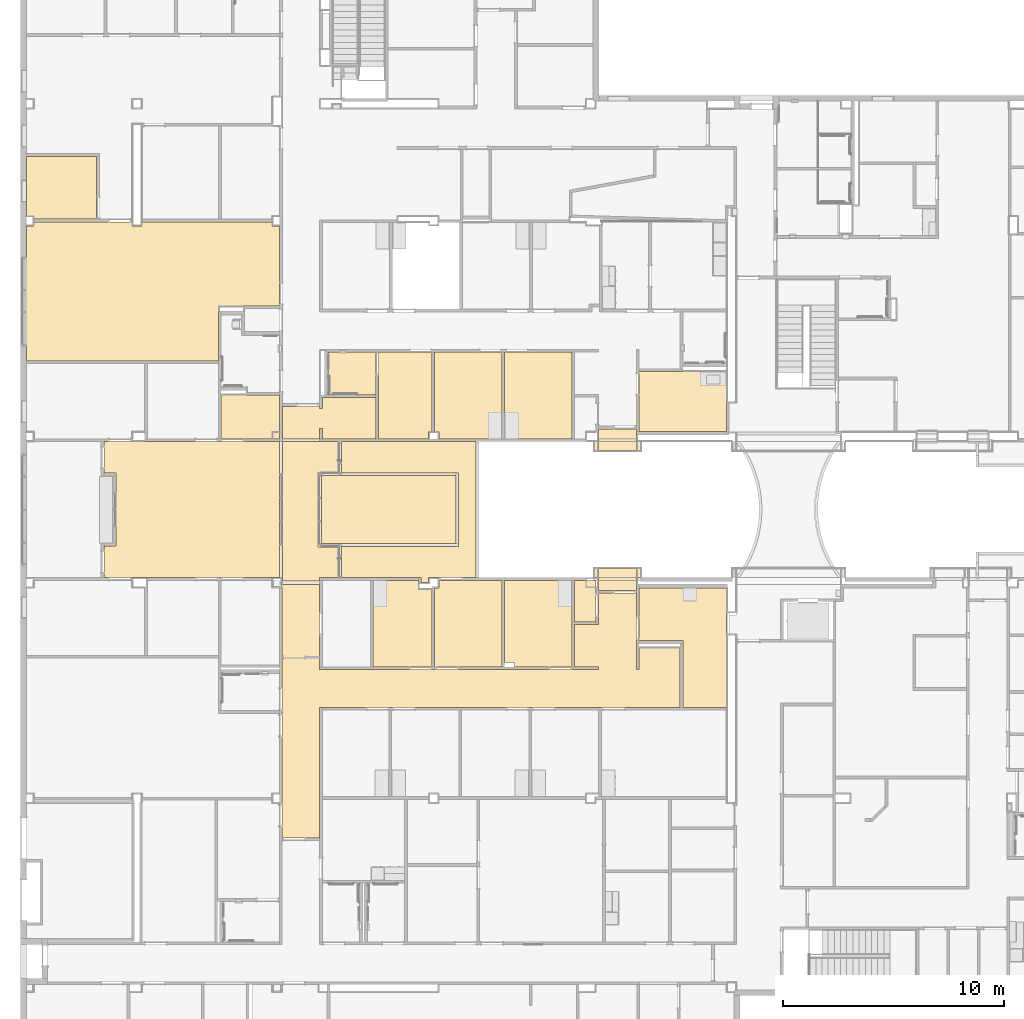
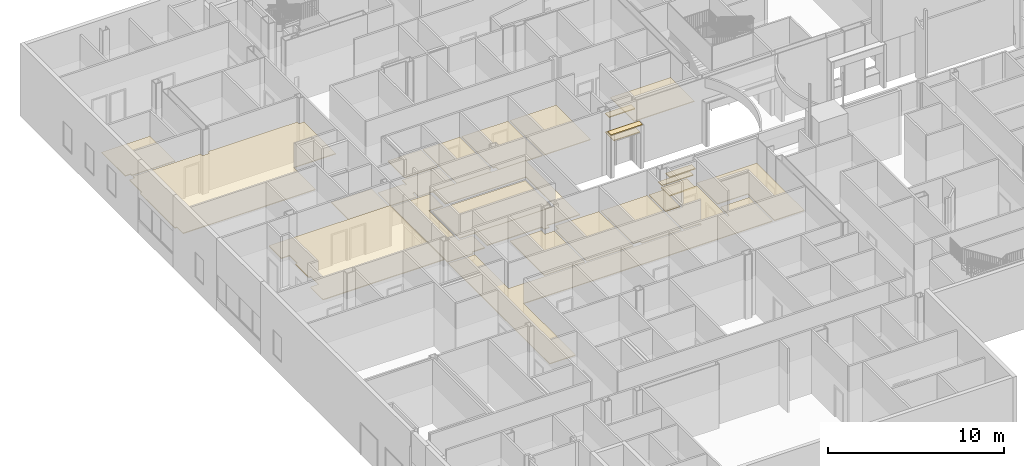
# One storey, part 51 of 87: 24 coverings.
"""IFC2X3 building model written with IfcOpenShell, lengths in metres."""

import ifcopenshell
import ifcopenshell.guid

model = None  # the IFC model being written
_history = None  # IfcOwnerHistory: only IFC2X3 demands one
_inside = {}  # id of a spatial element -> (the spatial element, [elements in it])
_under = {}  # id of a project, library or spatial element -> (it, [spatial elements below it])
_declared = {}  # id of a project -> (the project, [libraries it declares])
_typed = {}  # id of a type object -> (the type object, [elements of that type])
_made_of = {}  # id of a material, layer set ... -> (it, [elements and type objects made of it])


def new_model(schema):
    """Start an empty IFC model of exactly this schema.

    Asked for "IFC4X3", IfcOpenShell would pick the latest addendum, in which some entities
    have other attributes; the version numbers below select the first issue.
    IFC2X3 requires an IfcOwnerHistory on every rooted entity: one is made here for all.
    """
    global model, _history
    if schema == "IFC4X3":
        model = ifcopenshell.file(schema_version=(4, 3, 0, 0))
    else:
        model = ifcopenshell.file(schema=schema)
    _inside.clear()
    _under.clear()
    _declared.clear()
    _typed.clear()
    _made_of.clear()
    _history = None
    if model.schema == "IFC2X3":
        org = make("IfcOrganization", Name="unknown")
        user = make(
            "IfcPersonAndOrganization",
            ThePerson=make("IfcPerson", FamilyName="unknown"),
            TheOrganization=org,
        )
        app = make(
            "IfcApplication",
            ApplicationDeveloper=org,
            Version="unknown",
            ApplicationFullName="unknown",
            ApplicationIdentifier="unknown",
        )
        _history = make(
            "IfcOwnerHistory",
            OwningUser=user,
            OwningApplication=app,
            ChangeAction="ADDED",
            CreationDate=0,
        )
    return model


def make(cls, **values):
    """One entity of the class cls with the attributes given. An attribute that is None is left unset."""
    return model.create_entity(
        cls, **{name: value for name, value in values.items() if value is not None}
    )


def entity(cls, *values):
    """Any entity or typed value of the class cls, its attributes in the order of the schema. None: left unset."""
    e = model.create_entity(cls)
    for i, value in enumerate(values):
        if value is not None:
            e[i] = value
    return e


def rooted(cls, **values):
    """An entity with a GlobalId (a new one), such as an element, a storey or a relation."""
    return make(cls, GlobalId=ifcopenshell.guid.new(), OwnerHistory=_history, **values)


def si_unit(unit_type, name, prefix=None):
    """IfcSIUnit, for example si_unit("LENGTHUNIT", "METRE", prefix="MILLI")."""
    return make("IfcSIUnit", UnitType=unit_type, Prefix=prefix, Name=name)


def converted_unit(unit_type, name, factor, base, dimensions=None, offset=None):
    """IfcConversionBasedUnit, such as the inch: factor (a typed value) times the base unit."""
    return make(
        "IfcConversionBasedUnit"
        if offset is None
        else "IfcConversionBasedUnitWithOffset",
        ConversionOffset=offset,
        Dimensions=None
        if dimensions is None
        else entity("IfcDimensionalExponents", *dimensions),
        UnitType=unit_type,
        Name=name,
        ConversionFactor=make(
            "IfcMeasureWithUnit", ValueComponent=factor, UnitComponent=base
        ),
    )


def assignment(units):
    """IfcUnitAssignment: the units of a project."""
    return None if units is None else make("IfcUnitAssignment", Units=units)


def point(xyz):
    """IfcCartesianPoint."""
    return None if xyz is None else make("IfcCartesianPoint", Coordinates=xyz)


def direction(xyz):
    """IfcDirection."""
    return None if xyz is None else make("IfcDirection", DirectionRatios=xyz)


def frame(location, z_axis=None, x_axis=None):
    """IfcAxis2Placement3D, a coordinate frame: its origin and axes. An axis left out is left unset."""
    return make(
        "IfcAxis2Placement3D",
        Location=point(location),
        Axis=direction(z_axis),
        RefDirection=direction(x_axis),
    )


def origin():
    """The frame at (0, 0, 0) with its axes left unset."""
    return frame((0.0, 0.0, 0.0))


def place(relative_to, where):
    """IfcLocalPlacement: puts the frame where relative to a parent placement (None: the world)."""
    return make(
        "IfcLocalPlacement", PlacementRelTo=relative_to, RelativePlacement=where
    )


def context(
    kind, dimensions, precision=None, world=None, true_north=None, identifier=None
):
    """IfcGeometricRepresentationContext, for example the 3D "Model" context."""
    return make(
        "IfcGeometricRepresentationContext",
        ContextIdentifier=identifier,
        ContextType=kind,
        CoordinateSpaceDimension=dimensions,
        Precision=precision,
        WorldCoordinateSystem=world,
        TrueNorth=true_north,
    )


def project(units=None, contexts=None):
    """IfcProject with its units and contexts."""
    return rooted(
        "IfcProject",
        Name="project",
        RepresentationContexts=contexts,
        UnitsInContext=assignment(units),
    )


def spatial(cls, under=None, at=None, **own):
    """A site, building, storey or space (cls), placed at a placement, below another one or the project."""
    s = rooted(cls, ObjectPlacement=at, **own)
    if under is not None:
        _under.setdefault(under.id(), (under, []))[1].append(s)
    return s


def faces_of(points, faces, orient=None, outer=None):
    """IfcFace entities. A face is a list of loops; a loop is a list of indices into points, from 0.

    orient and outer hold one flag for each loop. By default every Orientation is true, the
    first loop of a face is its IfcFaceOuterBound and the others are IfcFaceBound.
    """
    made = []
    for i, loops in enumerate(faces):
        bounds = []
        for j, loop in enumerate(loops):
            is_outer = j == 0 if outer is None else outer[i][j]
            bounds.append(
                make(
                    "IfcFaceOuterBound" if is_outer else "IfcFaceBound",
                    Bound=make("IfcPolyLoop", Polygon=[points[k] for k in loop]),
                    Orientation=True if orient is None else orient[i][j],
                )
            )
        made.append(make("IfcFace", Bounds=bounds))
    return made


def face_set(faces, orient=None, outer=None):
    """The faces of one IfcConnectedFaceSet. surface_model builds it on its shared points."""
    return ("IfcConnectedFaceSet", faces, orient, outer)


def surface_model(cls, points, shells):
    """IfcFaceBasedSurfaceModel or IfcShellBasedSurfaceModel (cls): surfaces that need not close."""
    shared = [point(p) for p in points]
    made = [make(c, CfsFaces=faces_of(shared, fs, o, b)) for c, fs, o, b in shells]
    if cls == "IfcFaceBasedSurfaceModel":
        return make(cls, FbsmFaces=made)
    return make(cls, SbsmBoundary=made)


def shape(context_of_items, identifier, shape_type, items):
    """IfcShapeRepresentation: the items that make up one representation, for example the "Body"."""
    return make(
        "IfcShapeRepresentation",
        ContextOfItems=context_of_items,
        RepresentationIdentifier=identifier,
        RepresentationType=shape_type,
        Items=items,
    )


def material(Name=None, Category=None):
    """IfcMaterial."""
    return make("IfcMaterial", Name=Name, Category=Category)


def layer(
    of_material, thickness, ventilated=None, Name=None, Category=None, Priority=None
):
    """IfcMaterialLayer: one layer of a wall or slab, of a material (None: an air gap)."""
    return make(
        "IfcMaterialLayer",
        Material=of_material,
        LayerThickness=thickness,
        IsVentilated=ventilated,
        Name=Name,
        Category=Category,
        Priority=Priority,
    )


def layer_set(layers, Name=None):
    """IfcMaterialLayerSet."""
    return make("IfcMaterialLayerSet", MaterialLayers=layers, LayerSetName=Name)


def layer_usage(for_layer_set, set_direction, sense, offset, extent=None):
    """IfcMaterialLayerSetUsage: how a layer set lies in its element."""
    return make(
        "IfcMaterialLayerSetUsage",
        ForLayerSet=for_layer_set,
        LayerSetDirection=set_direction,
        DirectionSense=sense,
        OffsetFromReferenceLine=offset,
        ReferenceExtent=extent,
    )


def made_of(thing, what):
    """Note that an element or type object is made of a material, layer set ...; save() writes the relation."""
    if what is not None:
        _made_of.setdefault(what.id(), (what, []))[1].append(thing)
    return thing


def element(
    cls,
    number,
    at=None,
    inside=None,
    cuts=None,
    type_object=None,
    material=None,
    context=None,
    identifier="Body",
    shape_type=None,
    held_by="IfcProductDefinitionShape",
    body=None,
    shapes=None,
    **own,
):
    """One element of the class cls, such as IfcWall. Its Tag is "e" and its number.

    at: its placement. inside: the storey or other place that contains it. cuts: it is an
    opening in that element (IfcRelVoidsElement). A single representation is given by context,
    identifier, shape_type and body (its items); several are given by shapes. held_by: the class
    of the entity that holds the representations. save() writes the other relations.
    """
    e = rooted(cls, Tag="e%d" % number, ObjectPlacement=at, **own)
    if body is not None:
        shapes = [shape(context, identifier, shape_type, body)]
    if shapes is not None:
        e.Representation = make(held_by, Representations=shapes)
    if inside is not None:
        _inside.setdefault(inside.id(), (inside, []))[1].append(e)
    if cuts is not None:
        rooted(
            "IfcRelVoidsElement", RelatingBuildingElement=cuts, RelatedOpeningElement=e
        )
    if type_object is not None:
        _typed.setdefault(type_object.id(), (type_object, []))[1].append(e)
    return made_of(e, material)


def aggregate(whole, parts):
    """IfcRelAggregates: a whole, such as a stair, and the parts it consists of."""
    return rooted("IfcRelAggregates", RelatingObject=whole, RelatedObjects=parts)


def save(model, path):
    """Write the relations noted so far, then the file.

    IfcRelAggregates (storeys below a building ...), IfcRelContainedInSpatialStructure (elements
    in a storey), IfcRelDefinesByType, IfcRelAssociatesMaterial and IfcRelDeclares: one each for
    every whole, place, type object, material and project.
    """
    for whole, parts in _under.values():
        aggregate(whole, parts)
    for where, things in _inside.values():
        rooted(
            "IfcRelContainedInSpatialStructure",
            RelatedElements=things,
            RelatingStructure=where,
        )
    for kind, things in _typed.values():
        rooted("IfcRelDefinesByType", RelatedObjects=things, RelatingType=kind)
    for what, things in _made_of.values():
        rooted("IfcRelAssociatesMaterial", RelatedObjects=things, RelatingMaterial=what)
    for by, libraries in _declared.values():
        rooted("IfcRelDeclares", RelatingContext=by, RelatedDefinitions=libraries)
    model.write(path)


model = new_model("IFC2X3")

# Units and contexts
model_context = context("Model", 3, precision=1e-09, world=origin())
plan_context = context("Plan", 3, precision=1e-09, world=origin())
ifc_project = project(units=[si_unit("LENGTHUNIT", "METRE"), si_unit("AREAUNIT", "SQUARE_METRE"), si_unit("VOLUMEUNIT", "CUBIC_METRE"), converted_unit("PLANEANGLEUNIT", "DEGREE", entity("IfcRatioMeasure", 0.01745329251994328), si_unit("PLANEANGLEUNIT", "RADIAN"), dimensions=[0, 0, 0, 0, 0, 0, 0]), si_unit("TIMEUNIT", "SECOND")], contexts=[model_context, plan_context])

# Site, building, storey
site_placement = place(None, origin())
site = spatial("IfcSite", under=ifc_project, at=site_placement, Name="Default", CompositionType="ELEMENT")
building_placement = place(site_placement, origin())
building = spatial("IfcBuilding", under=site, at=building_placement, CompositionType="ELEMENT")
storey_placement = place(building_placement, origin())
storey = spatial("IfcBuildingStorey", under=building, at=storey_placement, Name="First Floor", CompositionType="ELEMENT", Elevation=-3.531500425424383e-13)

# Coverings
ifc_material_1 = material(Name="Default")
ifc_layer_1 = layer(ifc_material_1, 0.03599999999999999)
ifc_material_2 = material(Name="Ceiling Tile 600 x 600")
ifc_layer_2 = layer(ifc_material_2, 0.016)
ifc_layer_set_1 = layer_set([ifc_layer_1, ifc_layer_2], Name="Compound Ceiling:ACT 600 x 600mm Grid")
ifc_layer_usage_1 = layer_usage(ifc_layer_set_1, "AXIS3", "NEGATIVE", 0.0)
covering_1_placement = place(storey_placement, origin())
element("IfcCovering", 1, at=covering_1_placement, inside=storey, material=ifc_layer_usage_1, Name="Compound Ceiling:ACT 600 x 600mm Grid", ObjectType="Compound Ceiling:ACT 600 x 600mm Grid", PredefinedType="CEILING", context=model_context, shape_type="SurfaceModel", body=[
    surface_model("IfcFaceBasedSurfaceModel", [(-40.53700000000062, 44.54999999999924, 2.732), (-40.89000000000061, 44.54999999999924, 2.732), (-40.89000000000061, 44.73999999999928, 2.732), (-46.77000000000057, 44.7399999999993, 2.732), (-46.77000000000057, 44.54999999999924, 2.732), (-47.23000000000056, 44.54999999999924, 2.732), (-47.23000000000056, 44.73999999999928, 2.732), (-51.67000000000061, 44.7399999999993, 2.732), (-51.67000000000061, 44.54999999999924, 2.732), (-52.01300000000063, 44.54999999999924, 2.732), (-52.01300000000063, 43.12995228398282, 2.732), (-52.14650000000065, 43.12995228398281, 2.732), (-52.14650000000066, 39.12995228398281, 2.732), (-52.01300000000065, 39.12995228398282, 2.732), (-52.01300000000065, 38.42999999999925, 2.732), (-43.31000000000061, 38.42999999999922, 2.732), (-43.31000000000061, 40.9299999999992, 2.732), (-40.53700000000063, 40.9299999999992, 2.732), (-40.53700000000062, 44.54999999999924, 2.68), (-40.53700000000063, 40.9299999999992, 2.68), (-43.31000000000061, 40.9299999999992, 2.68), (-43.31000000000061, 38.42999999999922, 2.68), (-52.01300000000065, 38.42999999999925, 2.68), (-52.01300000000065, 39.12995228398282, 2.68), (-52.14650000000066, 39.12995228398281, 2.68), (-52.14650000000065, 43.12995228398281, 2.68), (-52.01300000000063, 43.12995228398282, 2.68), (-52.01300000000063, 44.54999999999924, 2.68), (-51.67000000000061, 44.54999999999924, 2.68), (-51.67000000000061, 44.7399999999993, 2.68), (-47.23000000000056, 44.73999999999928, 2.68), (-47.23000000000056, 44.54999999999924, 2.68), (-46.77000000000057, 44.54999999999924, 2.68), (-46.77000000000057, 44.7399999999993, 2.68), (-40.89000000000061, 44.73999999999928, 2.68), (-40.89000000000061, 44.54999999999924, 2.68)], [face_set([[[0, 1, 2, 3, 4, 5, 6, 7, 8, 9, 10, 11, 12, 13, 14, 15, 16, 17]], [[18, 19, 20, 21, 22, 23, 24, 25, 26, 27, 28, 29, 30, 31, 32, 33, 34, 35]], [[2, 1, 35, 34]], [[3, 33, 34, 2]], [[4, 32, 33, 3]], [[5, 31, 32, 4]], [[6, 5, 31, 30]], [[7, 29, 30, 6]], [[8, 28, 29, 7]], [[9, 27, 28, 8]], [[10, 26, 27, 9]], [[11, 25, 26, 10]], [[12, 24, 25, 11]], [[13, 12, 24, 23]], [[14, 22, 23, 13]], [[15, 14, 22, 21]], [[16, 15, 21, 20]], [[17, 16, 20, 19]], [[0, 17, 19, 18]], [[1, 35, 18, 0]]])]),
])
ifc_layer_usage_2 = layer_usage(ifc_layer_set_1, "AXIS3", "NEGATIVE", 0.0)
covering_2_placement = place(storey_placement, origin())
element("IfcCovering", 2, at=covering_2_placement, inside=storey, material=ifc_layer_usage_2, Name="Compound Ceiling:ACT 600 x 600mm Grid", ObjectType="Compound Ceiling:ACT 600 x 600mm Grid", PredefinedType="CEILING", context=model_context, shape_type="SurfaceModel", body=[
    surface_model("IfcFaceBasedSurfaceModel", [(-43.18600000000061, 36.87999999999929, 2.732), (-40.53700000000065, 36.87999999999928, 2.732), (-40.53700000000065, 34.90399999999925, 2.732), (-43.18600000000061, 34.90399999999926, 2.732), (-43.18600000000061, 36.87999999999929, 2.68), (-40.53700000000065, 36.87999999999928, 2.68), (-40.53700000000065, 34.90399999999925, 2.68), (-43.18600000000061, 34.90399999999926, 2.68)], [face_set([[[0, 1, 2, 3]], [[4, 5, 6, 7]], [[3, 7, 4, 0]], [[2, 3, 7, 6]], [[1, 2, 6, 5]], [[0, 4, 5, 1]]])]),
])
ifc_layer_usage_3 = layer_usage(ifc_layer_set_1, "AXIS3", "NEGATIVE", 0.0)
covering_3_placement = place(storey_placement, origin())
element("IfcCovering", 3, at=covering_3_placement, inside=storey, material=ifc_layer_usage_3, Name="Compound Ceiling:ACT 600 x 600mm Grid", ObjectType="Compound Ceiling:ACT 600 x 600mm Grid", PredefinedType="CEILING", context=model_context, shape_type="SurfaceModel", body=[
    surface_model("IfcFaceBasedSurfaceModel", [(-20.29000000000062, 22.72999999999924, 2.732), (-22.25600000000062, 22.72999999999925, 2.732), (-22.25600000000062, 25.7659999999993, 2.732), (-24.24600000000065, 25.76599999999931, 2.732), (-24.24600000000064, 28.14999999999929, 2.732), (-20.2900000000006, 28.14999999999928, 2.732), (-20.29000000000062, 22.72999999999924, 2.68), (-22.25600000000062, 22.72999999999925, 2.68), (-22.25600000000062, 25.7659999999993, 2.68), (-24.24600000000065, 25.76599999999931, 2.68), (-24.24600000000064, 28.14999999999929, 2.68), (-20.2900000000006, 28.14999999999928, 2.68)], [face_set([[[0, 1, 2, 3, 4, 5]], [[6, 7, 8, 9, 10, 11]], [[4, 10, 11, 5]], [[3, 9, 10, 4]], [[2, 3, 9, 8]], [[1, 7, 8, 2]], [[0, 1, 7, 6]], [[5, 0, 6, 11]]])]),
])
ifc_layer_usage_4 = layer_usage(ifc_layer_set_1, "AXIS3", "NEGATIVE", 0.0)
covering_4_placement = place(storey_placement, origin())
element("IfcCovering", 4, at=covering_4_placement, inside=storey, material=ifc_layer_usage_4, Name="Compound Ceiling:ACT 600 x 600mm Grid", ObjectType="Compound Ceiling:ACT 600 x 600mm Grid", PredefinedType="CEILING", context=model_context, shape_type="SurfaceModel", body=[
    surface_model("IfcFaceBasedSurfaceModel", [(-27.29399974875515, 24.56399999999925, 2.732), (-29.90000055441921, 24.56399999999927, 2.732), (-29.90000055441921, 24.75500039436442, 2.732), (-30.34000000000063, 24.75500039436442, 2.732), (-30.34000000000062, 28.4859999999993, 2.732), (-27.29399974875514, 28.48599999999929, 2.732), (-27.29399974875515, 26.54199999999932, 2.732), (-27.29399974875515, 24.56399999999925, 2.68), (-29.90000055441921, 24.56399999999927, 2.68), (-29.90000055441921, 24.75500039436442, 2.68), (-30.34000000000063, 24.75500039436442, 2.68), (-30.34000000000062, 28.4859999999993, 2.68), (-27.29399974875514, 28.48599999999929, 2.68), (-27.29399974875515, 26.54199999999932, 2.68)], [face_set([[[0, 1, 2, 3, 4, 5, 6]], [[7, 8, 9, 10, 11, 12, 13]], [[6, 0, 7, 13]], [[5, 6, 13, 12]], [[4, 11, 12, 5]], [[3, 10, 11, 4]], [[2, 3, 10, 9]], [[1, 8, 9, 2]], [[0, 1, 8, 7]]])]),
])
ifc_layer_usage_5 = layer_usage(ifc_layer_set_1, "AXIS3", "NEGATIVE", 0.0)
covering_5_placement = place(storey_placement, origin())
element("IfcCovering", 5, at=covering_5_placement, inside=storey, material=ifc_layer_usage_5, Name="Compound Ceiling:ACT 600 x 600mm Grid", ObjectType="Compound Ceiling:ACT 600 x 600mm Grid", PredefinedType="CEILING", context=model_context, shape_type="SurfaceModel", body=[
    surface_model("IfcFaceBasedSurfaceModel", [(-30.46400000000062, 24.56399999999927, 2.732), (-33.51000000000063, 24.56399999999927, 2.732), (-33.51000000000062, 28.14999999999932, 2.732), (-33.32000000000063, 28.14999999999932, 2.732), (-33.32000000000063, 28.48599999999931, 2.732), (-30.46400000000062, 28.4859999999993, 2.732), (-30.46400000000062, 24.56399999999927, 2.68), (-33.51000000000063, 24.56399999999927, 2.68), (-33.51000000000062, 28.14999999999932, 2.68), (-33.32000000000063, 28.14999999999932, 2.68), (-33.32000000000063, 28.48599999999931, 2.68), (-30.46400000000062, 28.4859999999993, 2.68)], [face_set([[[0, 1, 2, 3, 4, 5]], [[6, 7, 8, 9, 10, 11]], [[5, 0, 6, 11]], [[4, 10, 11, 5]], [[3, 9, 10, 4]], [[2, 8, 9, 3]], [[1, 7, 8, 2]], [[0, 1, 7, 6]]])]),
])
ifc_layer_usage_6 = layer_usage(ifc_layer_set_1, "AXIS3", "NEGATIVE", 0.0)
covering_6_placement = place(storey_placement, origin())
element("IfcCovering", 6, at=covering_6_placement, inside=storey, material=ifc_layer_usage_6, Name="Compound Ceiling:ACT 600 x 600mm Grid", ObjectType="Compound Ceiling:ACT 600 x 600mm Grid", PredefinedType="CEILING", context=model_context, shape_type="SurfaceModel", body=[
    surface_model("IfcFaceBasedSurfaceModel", [(-36.30600000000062, 28.48599999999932, 2.732), (-34.2540000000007, 28.48599999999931, 2.732), (-34.2540000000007, 28.06499951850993, 2.732), (-33.63400000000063, 28.06499951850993, 2.732), (-33.63400000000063, 24.56399999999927, 2.732), (-36.30600000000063, 24.56399999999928, 2.732), (-36.30600000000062, 28.48599999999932, 2.68), (-34.2540000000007, 28.48599999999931, 2.68), (-34.2540000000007, 28.06499951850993, 2.68), (-33.63400000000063, 28.06499951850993, 2.68), (-33.63400000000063, 24.56399999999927, 2.68), (-36.30600000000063, 24.56399999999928, 2.68)], [face_set([[[0, 1, 2, 3, 4, 5]], [[6, 7, 8, 9, 10, 11]], [[5, 11, 6, 0]], [[4, 5, 11, 10]], [[3, 4, 10, 9]], [[2, 8, 9, 3]], [[1, 2, 8, 7]], [[0, 6, 7, 1]]])]),
])
ifc_layer_usage_7 = layer_usage(ifc_layer_set_1, "AXIS3", "NEGATIVE", 0.0)
covering_7_placement = place(storey_placement, origin())
element("IfcCovering", 7, at=covering_7_placement, inside=storey, material=ifc_layer_usage_7, Name="Compound Ceiling:ACT 600 x 600mm Grid", ObjectType="Compound Ceiling:ACT 600 x 600mm Grid", PredefinedType="CEILING", context=model_context, shape_type="SurfaceModel", body=[
    surface_model("IfcFaceBasedSurfaceModel", [(-26.20400000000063, 28.48599999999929, 2.732), (-26.20400000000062, 26.60399999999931, 2.732), (-27.16999974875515, 26.60399999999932, 2.732), (-27.16999974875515, 28.48599999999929, 2.732), (-26.20400000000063, 28.48599999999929, 2.68), (-26.20400000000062, 26.60399999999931, 2.68), (-27.16999974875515, 26.60399999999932, 2.68), (-27.16999974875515, 28.48599999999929, 2.68)], [face_set([[[0, 1, 2, 3]], [[4, 5, 6, 7]], [[3, 7, 4, 0]], [[2, 6, 7, 3]], [[1, 2, 6, 5]], [[0, 1, 5, 4]]])]),
])
ifc_layer_usage_8 = layer_usage(ifc_layer_set_1, "AXIS3", "NEGATIVE", 0.0)
covering_8_placement = place(storey_placement, origin())
element("IfcCovering", 8, at=covering_8_placement, inside=storey, material=ifc_layer_usage_8, Name="Compound Ceiling:ACT 600 x 600mm Grid", ObjectType="Compound Ceiling:ACT 600 x 600mm Grid", PredefinedType="CEILING", context=model_context, shape_type="SurfaceModel", body=[
    surface_model("IfcFaceBasedSurfaceModel", [(-20.29000000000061, 36.59699999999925, 2.732), (-20.29000000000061, 35.23999999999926, 2.732), (-24.24600000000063, 35.23999999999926, 2.732), (-24.24600000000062, 37.94999999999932, 2.732), (-20.29000000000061, 37.94999999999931, 2.732), (-20.29000000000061, 36.59699999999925, 2.68), (-20.29000000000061, 35.23999999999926, 2.68), (-24.24600000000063, 35.23999999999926, 2.68), (-24.24600000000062, 37.94999999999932, 2.68), (-20.29000000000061, 37.94999999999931, 2.68)], [face_set([[[0, 1, 2, 3, 4]], [[5, 6, 7, 8, 9]], [[3, 8, 9, 4]], [[2, 7, 8, 3]], [[1, 2, 7, 6]], [[0, 1, 6, 5]], [[4, 0, 5, 9]]])]),
])
ifc_layer_usage_9 = layer_usage(ifc_layer_set_1, "AXIS3", "NEGATIVE", 0.0)
covering_9_placement = place(storey_placement, origin())
element("IfcCovering", 9, at=covering_9_placement, inside=storey, material=ifc_layer_usage_9, Name="Compound Ceiling:ACT 600 x 600mm Grid", ObjectType="Compound Ceiling:ACT 600 x 600mm Grid", PredefinedType="CEILING", context=model_context, shape_type="SurfaceModel", body=[
    surface_model("IfcFaceBasedSurfaceModel", [(-30.34000000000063, 34.90354814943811, 2.732), (-30.34000000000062, 38.82599999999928, 2.732), (-27.29400000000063, 38.82599999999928, 2.732), (-27.29400000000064, 34.9035481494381, 2.732), (-30.34000000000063, 34.90354814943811, 2.68), (-30.34000000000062, 38.82599999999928, 2.68), (-27.29400000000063, 38.82599999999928, 2.68), (-27.29400000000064, 34.9035481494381, 2.68)], [face_set([[[0, 1, 2, 3]], [[4, 5, 6, 7]], [[3, 0, 4, 7]], [[2, 3, 7, 6]], [[1, 5, 6, 2]], [[0, 4, 5, 1]]])]),
])
ifc_layer_usage_10 = layer_usage(ifc_layer_set_1, "AXIS3", "NEGATIVE", 0.0)
covering_10_placement = place(storey_placement, origin())
element("IfcCovering", 10, at=covering_10_placement, inside=storey, material=ifc_layer_usage_10, Name="Compound Ceiling:ACT 600 x 600mm Grid", ObjectType="Compound Ceiling:ACT 600 x 600mm Grid", PredefinedType="CEILING", context=model_context, shape_type="SurfaceModel", body=[
    surface_model("IfcFaceBasedSurfaceModel", [(-33.51000000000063, 35.23999999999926, 2.732), (-33.32000000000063, 35.23999999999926, 2.732), (-33.32000000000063, 34.90354814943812, 2.732), (-30.46400000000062, 34.90354814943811, 2.732), (-30.46400000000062, 38.82599999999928, 2.732), (-33.51000000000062, 38.82599999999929, 2.732), (-33.51000000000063, 35.23999999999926, 2.68), (-33.51000000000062, 38.82599999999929, 2.68), (-30.46400000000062, 38.82599999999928, 2.68), (-30.46400000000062, 34.90354814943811, 2.68), (-33.32000000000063, 34.90354814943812, 2.68), (-33.32000000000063, 35.23999999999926, 2.68)], [face_set([[[0, 1, 2, 3, 4, 5]], [[6, 7, 8, 9, 10, 11]], [[1, 0, 6, 11]], [[2, 10, 11, 1]], [[3, 2, 10, 9]], [[4, 3, 9, 8]], [[5, 7, 8, 4]], [[0, 6, 7, 5]]])]),
])
ifc_layer_usage_11 = layer_usage(ifc_layer_set_1, "AXIS3", "NEGATIVE", 0.0)
covering_11_placement = place(storey_placement, origin())
element("IfcCovering", 11, at=covering_11_placement, inside=storey, material=ifc_layer_usage_11, Name="Compound Ceiling:ACT 600 x 600mm Grid", ObjectType="Compound Ceiling:ACT 600 x 600mm Grid", PredefinedType="CEILING", context=model_context, shape_type="SurfaceModel", body=[
    surface_model("IfcFaceBasedSurfaceModel", [(-38.34000000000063, 36.89399999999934, 2.732), (-38.34000000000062, 38.82599999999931, 2.732), (-36.17400000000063, 38.8259999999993, 2.732), (-36.17400000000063, 36.89399999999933, 2.732), (-38.34000000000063, 36.89399999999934, 2.68), (-38.34000000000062, 38.82599999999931, 2.68), (-36.17400000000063, 38.8259999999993, 2.68), (-36.17400000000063, 36.89399999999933, 2.68)], [face_set([[[0, 1, 2, 3]], [[4, 5, 6, 7]], [[3, 0, 4, 7]], [[2, 3, 7, 6]], [[1, 5, 6, 2]], [[0, 4, 5, 1]]])]),
])
ifc_layer_usage_12 = layer_usage(ifc_layer_set_1, "AXIS3", "NEGATIVE", 0.0)
covering_12_placement = place(storey_placement, origin())
element("IfcCovering", 12, at=covering_12_placement, inside=storey, material=ifc_layer_usage_12, Name="Compound Ceiling:ACT 600 x 600mm Grid", ObjectType="Compound Ceiling:ACT 600 x 600mm Grid", PredefinedType="CEILING", context=model_context, shape_type="SurfaceModel", body=[
    surface_model("IfcFaceBasedSurfaceModel", [(-40.43000000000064, 16.81399999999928, 2.732), (-40.43000000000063, 28.30350000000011, 2.732), (-38.72000000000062, 28.30350000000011, 2.732), (-38.72000000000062, 24.43999999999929, 2.732), (-26.08000000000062, 24.43999999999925, 2.732), (-26.08000000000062, 24.56399999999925, 2.732), (-27.16999974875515, 24.56399999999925, 2.732), (-27.16999974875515, 26.47999999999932, 2.732), (-26.08000000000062, 26.47999999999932, 2.732), (-26.08000000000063, 27.90999999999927, 2.732), (-24.37000000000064, 27.90999999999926, 2.732), (-24.37000000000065, 24.43999999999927, 2.732), (-24.24600000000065, 24.43999999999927, 2.732), (-24.24600000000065, 25.41999999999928, 2.732), (-22.38000000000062, 25.41999999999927, 2.732), (-22.38000000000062, 22.72999999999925, 2.732), (-38.72000000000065, 22.7299999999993, 2.732), (-38.72000000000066, 16.81399999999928, 2.732), (-40.43000000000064, 16.81399999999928, 2.68), (-40.43000000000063, 28.30350000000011, 2.68), (-38.72000000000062, 28.30350000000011, 2.68), (-38.72000000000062, 24.43999999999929, 2.68), (-26.08000000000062, 24.43999999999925, 2.68), (-26.08000000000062, 24.56399999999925, 2.68), (-27.16999974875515, 24.56399999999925, 2.68), (-27.16999974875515, 26.47999999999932, 2.68), (-26.08000000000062, 26.47999999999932, 2.68), (-26.08000000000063, 27.90999999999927, 2.68), (-24.37000000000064, 27.90999999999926, 2.68), (-24.37000000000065, 24.43999999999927, 2.68), (-24.24600000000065, 24.43999999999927, 2.68), (-24.24600000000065, 25.41999999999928, 2.68), (-22.38000000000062, 25.41999999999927, 2.68), (-22.38000000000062, 22.72999999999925, 2.68), (-38.72000000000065, 22.7299999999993, 2.68), (-38.72000000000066, 16.81399999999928, 2.68)], [face_set([[[0, 1, 2, 3, 4, 5, 6, 7, 8, 9, 10, 11, 12, 13, 14, 15, 16, 17]], [[18, 19, 20, 21, 22, 23, 24, 25, 26, 27, 28, 29, 30, 31, 32, 33, 34, 35]], [[17, 0, 18, 35]], [[16, 17, 35, 34]], [[15, 16, 34, 33]], [[14, 15, 33, 32]], [[13, 31, 32, 14]], [[12, 30, 31, 13]], [[11, 29, 30, 12]], [[10, 11, 29, 28]], [[9, 27, 28, 10]], [[8, 26, 27, 9]], [[7, 25, 26, 8]], [[6, 24, 25, 7]], [[5, 6, 24, 23]], [[4, 22, 23, 5]], [[3, 21, 22, 4]], [[2, 3, 21, 20]], [[1, 19, 20, 2]], [[0, 18, 19, 1]]])]),
])
ifc_layer_usage_13 = layer_usage(ifc_layer_set_1, "AXIS3", "NEGATIVE", 0.0)
covering_13_placement = place(storey_placement, origin())
element("IfcCovering", 13, at=covering_13_placement, inside=storey, material=ifc_layer_usage_13, Name="Compound Ceiling:ACT 600 x 600mm Grid", ObjectType="Compound Ceiling:ACT 600 x 600mm Grid", PredefinedType="CEILING", context=model_context, shape_type="SurfaceModel", body=[
    surface_model("IfcFaceBasedSurfaceModel", [(-40.41300000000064, 34.90354814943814, 2.732), (-40.41300000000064, 36.37749999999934, 2.732), (-38.72000000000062, 36.37749999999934, 2.732), (-38.72000000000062, 36.27749999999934, 2.732), (-38.59600000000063, 36.27749999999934, 2.732), (-38.59600000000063, 36.76999999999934, 2.732), (-36.17400000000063, 36.76999999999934, 2.732), (-36.17400000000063, 34.90354814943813, 2.732), (-38.59600000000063, 34.90354814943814, 2.732), (-38.59600000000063, 35.36249999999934, 2.732), (-38.72000000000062, 35.36249999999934, 2.732), (-38.72000000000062, 34.90354814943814, 2.732), (-40.41300000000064, 34.90354814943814, 2.68), (-40.41300000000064, 36.37749999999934, 2.68), (-38.72000000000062, 36.37749999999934, 2.68), (-38.72000000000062, 36.27749999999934, 2.68), (-38.59600000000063, 36.27749999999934, 2.68), (-38.59600000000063, 36.76999999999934, 2.68), (-36.17400000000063, 36.76999999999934, 2.68), (-36.17400000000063, 34.90354814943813, 2.68), (-38.59600000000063, 34.90354814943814, 2.68), (-38.59600000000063, 35.36249999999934, 2.68), (-38.72000000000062, 35.36249999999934, 2.68), (-38.72000000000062, 34.90354814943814, 2.68)], [face_set([[[0, 1, 2, 3, 4, 5, 6, 7, 8, 9, 10, 11]], [[12, 13, 14, 15, 16, 17, 18, 19, 20, 21, 22, 23]], [[11, 0, 12, 23]], [[10, 11, 23, 22]], [[9, 10, 22, 21]], [[8, 20, 21, 9]], [[7, 8, 20, 19]], [[6, 7, 19, 18]], [[5, 17, 18, 6]], [[4, 16, 17, 5]], [[3, 15, 16, 4]], [[2, 3, 15, 14]], [[1, 13, 14, 2]], [[0, 12, 13, 1]]])]),
])
ifc_layer_usage_14 = layer_usage(ifc_layer_set_1, "AXIS3", "NEGATIVE", 0.0)
covering_14_placement = place(storey_placement, origin())
element("IfcCovering", 14, at=covering_14_placement, inside=storey, material=ifc_layer_usage_14, Name="Compound Ceiling:ACT 600 x 600mm Grid", ObjectType="Compound Ceiling:ACT 600 x 600mm Grid", PredefinedType="CEILING", context=model_context, shape_type="SurfaceModel", body=[
    surface_model("IfcFaceBasedSurfaceModel", [(-33.63400000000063, 38.82599999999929, 2.732), (-33.63400000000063, 35.23999999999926, 2.732), (-33.78000000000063, 35.23999999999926, 2.732), (-33.78000000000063, 34.90354814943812, 2.732), (-36.05000000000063, 34.90354814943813, 2.732), (-36.05000000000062, 38.8259999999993, 2.732), (-33.63400000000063, 38.82599999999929, 2.68), (-33.63400000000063, 35.23999999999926, 2.68), (-33.78000000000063, 35.23999999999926, 2.68), (-33.78000000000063, 34.90354814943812, 2.68), (-36.05000000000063, 34.90354814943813, 2.68), (-36.05000000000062, 38.8259999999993, 2.68)], [face_set([[[0, 1, 2, 3, 4, 5]], [[6, 7, 8, 9, 10, 11]], [[5, 11, 6, 0]], [[4, 10, 11, 5]], [[3, 4, 10, 9]], [[2, 3, 9, 8]], [[1, 2, 8, 7]], [[0, 1, 7, 6]]])]),
])
ifc_layer_usage_15 = layer_usage(ifc_layer_set_1, "AXIS3", "NEGATIVE", 0.0)
covering_15_placement = place(storey_placement, origin())
element("IfcCovering", 15, at=covering_15_placement, inside=storey, material=ifc_layer_usage_15, Name="Compound Ceiling:ACT 600 x 600mm Grid", ObjectType="Compound Ceiling:ACT 600 x 600mm Grid", PredefinedType="CEILING", context=model_context, shape_type="SurfaceModel", body=[
    surface_model("IfcFaceBasedSurfaceModel", [(-52.01300000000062, 47.70599999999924, 2.732), (-48.82900000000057, 47.70599999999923, 2.732), (-48.82900000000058, 44.86399999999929, 2.732), (-51.67000000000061, 44.86399999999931, 2.732), (-51.67000000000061, 45.00999999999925, 2.732), (-52.01300000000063, 45.00999999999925, 2.732), (-52.01300000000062, 47.70599999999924, 2.68), (-48.82900000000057, 47.70599999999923, 2.68), (-48.82900000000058, 44.86399999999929, 2.68), (-51.67000000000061, 44.86399999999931, 2.68), (-51.67000000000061, 45.00999999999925, 2.68), (-52.01300000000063, 45.00999999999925, 2.68)], [face_set([[[0, 1, 2, 3, 4, 5]], [[6, 7, 8, 9, 10, 11]], [[5, 11, 6, 0]], [[4, 5, 11, 10]], [[3, 9, 10, 4]], [[2, 3, 9, 8]], [[1, 2, 8, 7]], [[0, 6, 7, 1]]])]),
])
ifc_material_3 = material(Name="Metal - Stud Layer")
ifc_layer_3 = layer(ifc_material_3, 0.045)
ifc_material_4 = material(Name="Plasterboard")
ifc_layer_4 = layer(ifc_material_4, 0.012)
ifc_layer_set_2 = layer_set([ifc_layer_3, ifc_layer_4], Name="Compound Ceiling:Gypsum Board")
ifc_layer_usage_16 = layer_usage(ifc_layer_set_2, "AXIS3", "NEGATIVE", 0.0)
covering_16_placement = place(storey_placement, origin())
element("IfcCovering", 16, at=covering_16_placement, inside=storey, material=ifc_layer_usage_16, Name="Compound Ceiling:Gypsum Board", ObjectType="Compound Ceiling:Gypsum Board", PredefinedType="CEILING", context=model_context, shape_type="SurfaceModel", body=[
    surface_model("IfcFaceBasedSurfaceModel", [(-31.63400000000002, 28.6099999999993, 2.857), (-33.78000000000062, 28.60999999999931, 2.857), (-33.78000000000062, 28.37999999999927, 2.857), (-34.1300000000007, 28.37999999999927, 2.857), (-34.1300000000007, 28.60999999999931, 2.857), (-37.73000000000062, 28.60999999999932, 2.857), (-37.73000000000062, 30.03099999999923, 2.857), (-32.42500000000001, 30.03099999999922, 2.857), (-32.42500000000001, 33.35899999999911, 2.857), (-37.73000000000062, 33.35899999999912, 2.857), (-37.73000000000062, 34.77954814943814, 2.857), (-31.63400000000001, 34.77954814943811, 2.857), (-48.50100000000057, 28.6099999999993, 2.857), (-48.50100000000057, 30.04599999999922, 2.857), (-47.96099986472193, 30.04599999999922, 2.857), (-47.96099986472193, 30.92999999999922, 2.857), (-48.08499986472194, 30.92999999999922, 2.857), (-48.08499986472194, 32.46399999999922, 2.857), (-47.96099986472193, 32.46399999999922, 2.857), (-47.96099986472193, 33.34399999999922, 2.857), (-48.50100000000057, 33.34399999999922, 2.857), (-48.50100000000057, 34.77999999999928, 2.857), (-40.53700000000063, 34.77999999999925, 2.857), (-40.53700000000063, 28.60999999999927, 2.857), (-48.50100000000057, 28.6099999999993, 2.8), (-48.50100000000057, 30.04599999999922, 2.8), (-47.96099986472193, 30.04599999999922, 2.8), (-47.96099986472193, 30.92999999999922, 2.8), (-48.08499986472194, 30.92999999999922, 2.8), (-48.08499986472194, 32.46399999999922, 2.8), (-47.96099986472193, 32.46399999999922, 2.8), (-47.96099986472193, 33.34399999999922, 2.8), (-48.50100000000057, 33.34399999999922, 2.8), (-48.50100000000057, 34.77999999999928, 2.8), (-40.53700000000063, 34.77999999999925, 2.8), (-40.53700000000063, 28.60999999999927, 2.8), (-31.63400000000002, 28.6099999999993, 2.8), (-31.63400000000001, 34.77954814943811, 2.8), (-37.73000000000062, 34.77954814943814, 2.8), (-37.73000000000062, 33.35899999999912, 2.8), (-32.42500000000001, 33.35899999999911, 2.8), (-32.42500000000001, 30.03099999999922, 2.8), (-37.73000000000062, 30.03099999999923, 2.8), (-37.73000000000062, 28.60999999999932, 2.8), (-34.1300000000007, 28.60999999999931, 2.8), (-34.1300000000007, 28.37999999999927, 2.8), (-33.78000000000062, 28.37999999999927, 2.8), (-33.78000000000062, 28.60999999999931, 2.8)], [face_set([[[0, 1, 2, 3, 4, 5, 6, 7, 8, 9, 10, 11]], [[12, 13, 14, 15, 16, 17, 18, 19, 20, 21, 22, 23]], [[24, 25, 26, 27, 28, 29, 30, 31, 32, 33, 34, 35]], [[36, 37, 38, 39, 40, 41, 42, 43, 44, 45, 46, 47]], [[11, 0, 36, 37]], [[10, 38, 37, 11]], [[21, 33, 34, 22]], [[20, 32, 33, 21]], [[19, 20, 32, 31]], [[18, 30, 31, 19]], [[17, 29, 30, 18]], [[16, 28, 29, 17]], [[15, 16, 28, 27]], [[14, 26, 27, 15]], [[13, 25, 26, 14]], [[12, 24, 25, 13]], [[23, 12, 24, 35]], [[4, 5, 43, 44]], [[3, 45, 44, 4]], [[2, 3, 45, 46]], [[1, 2, 46, 47]], [[0, 1, 47, 36]], [[9, 39, 38, 10]], [[8, 9, 39, 40]], [[7, 41, 40, 8]], [[6, 42, 41, 7]], [[5, 43, 42, 6]], [[22, 23, 35, 34]]])]),
])
ifc_layer_usage_17 = layer_usage(ifc_layer_set_2, "AXIS3", "NEGATIVE", 0.0)
covering_17_placement = place(storey_placement, origin())
element("IfcCovering", 17, at=covering_17_placement, inside=storey, material=ifc_layer_usage_17, Name="Compound Ceiling:Gypsum Board", ObjectType="Compound Ceiling:Gypsum Board", PredefinedType="CEILING", context=model_context, shape_type="SurfaceModel", body=[
    surface_model("IfcFaceBasedSurfaceModel", [(-24.37000000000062, 35.35599999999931, 3.857), (-24.37000000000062, 34.9035481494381, 3.857), (-26.08000000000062, 34.9035481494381, 3.857), (-26.08000000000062, 35.35599999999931, 3.857), (-24.37000000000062, 35.35599999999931, 3.8), (-24.37000000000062, 34.9035481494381, 3.8), (-26.08000000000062, 34.9035481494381, 3.8), (-26.08000000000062, 35.35599999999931, 3.8)], [face_set([[[0, 1, 2, 3]], [[4, 5, 6, 7]], [[3, 7, 4, 0]], [[2, 6, 7, 3]], [[1, 2, 6, 5]], [[0, 1, 5, 4]]])]),
])
ifc_layer_usage_18 = layer_usage(ifc_layer_set_2, "AXIS3", "NEGATIVE", 0.0)
covering_18_placement = place(storey_placement, origin())
element("IfcCovering", 18, at=covering_18_placement, inside=storey, material=ifc_layer_usage_18, Name="Compound Ceiling:Gypsum Board", ObjectType="Compound Ceiling:Gypsum Board", PredefinedType="CEILING", context=model_context, shape_type="SurfaceModel", body=[
    surface_model("IfcFaceBasedSurfaceModel", [(-26.08000000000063, 28.03399999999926, 3.857), (-26.08000000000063, 28.48599999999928, 3.857), (-24.37000000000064, 28.48599999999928, 3.857), (-24.37000000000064, 28.03399999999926, 3.857), (-26.08000000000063, 28.03399999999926, 3.8), (-26.08000000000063, 28.48599999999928, 3.8), (-24.37000000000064, 28.48599999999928, 3.8), (-24.37000000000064, 28.03399999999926, 3.8)], [face_set([[[0, 1, 2, 3]], [[4, 5, 6, 7]], [[3, 0, 4, 7]], [[2, 3, 7, 6]], [[1, 5, 6, 2]], [[0, 4, 5, 1]]])]),
])
ifc_layer_usage_19 = layer_usage(ifc_layer_set_1, "AXIS3", "NEGATIVE", 0.0)
covering_19_placement = place(storey_placement, origin())
element("IfcCovering", 19, at=covering_19_placement, inside=storey, material=ifc_layer_usage_19, Name="Compound Ceiling:ACT 600 x 600mm Grid", ObjectType="Compound Ceiling:ACT 600 x 600mm Grid", PredefinedType="CEILING", context=model_context, shape_type="SurfaceModel", body=[
    surface_model("IfcFaceBasedSurfaceModel", [(-37.88000000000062, 34.77954814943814, 2.732), (-37.88000000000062, 33.38499999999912, 2.732), (-38.79500000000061, 33.38499999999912, 2.732), (-38.79500000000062, 30.00499999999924, 2.732), (-37.88000000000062, 30.00499999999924, 2.732), (-37.88000000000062, 28.60999999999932, 2.732), (-38.72000000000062, 28.60999999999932, 2.732), (-38.72000000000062, 28.45650000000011, 2.732), (-40.41300000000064, 28.45650000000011, 2.732), (-40.41300000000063, 34.77954814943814, 2.732), (-37.88000000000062, 34.77954814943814, 2.68), (-37.88000000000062, 33.38499999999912, 2.68), (-38.79500000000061, 33.38499999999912, 2.68), (-38.79500000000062, 30.00499999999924, 2.68), (-37.88000000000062, 30.00499999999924, 2.68), (-37.88000000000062, 28.60999999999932, 2.68), (-38.72000000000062, 28.60999999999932, 2.68), (-38.72000000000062, 28.45650000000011, 2.68), (-40.41300000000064, 28.45650000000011, 2.68), (-40.41300000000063, 34.77954814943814, 2.68)], [face_set([[[0, 1, 2, 3, 4, 5, 6, 7, 8, 9]], [[10, 11, 12, 13, 14, 15, 16, 17, 18, 19]], [[9, 19, 10, 0]], [[8, 18, 19, 9]], [[7, 8, 18, 17]], [[6, 7, 17, 16]], [[5, 6, 16, 15]], [[4, 5, 15, 14]], [[3, 13, 14, 4]], [[2, 3, 13, 12]], [[1, 2, 12, 11]], [[0, 1, 11, 10]]])]),
])
ifc_layer_usage_20 = layer_usage(ifc_layer_set_1, "AXIS3", "NEGATIVE", 0.0)
covering_20_placement = place(storey_placement, origin())
element("IfcCovering", 20, at=covering_20_placement, inside=storey, material=ifc_layer_usage_20, Name="Compound Ceiling:ACT 600 x 600mm Grid", ObjectType="Compound Ceiling:ACT 600 x 600mm Grid", PredefinedType="CEILING", context=model_context, shape_type="SurfaceModel", body=[
    surface_model("IfcFaceBasedSurfaceModel", [(-38.64500000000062, 30.15499999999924, 2.732), (-38.64500000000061, 33.23499999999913, 2.732), (-32.54900000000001, 33.2349999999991, 2.732), (-32.54900000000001, 30.15499999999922, 2.732), (-38.64500000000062, 30.15499999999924, 2.68), (-38.64500000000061, 33.23499999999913, 2.68), (-32.54900000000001, 33.2349999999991, 2.68), (-32.54900000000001, 30.15499999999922, 2.68)], [face_set([[[0, 1, 2, 3]], [[4, 5, 6, 7]], [[3, 0, 4, 7]], [[2, 3, 7, 6]], [[1, 5, 6, 2]], [[0, 4, 5, 1]]])]),
])
ifc_layer_usage_21 = layer_usage(ifc_layer_set_2, "AXIS3", "NEGATIVE", 0.0)
covering_21_placement = place(storey_placement, origin())
element("IfcCovering", 21, at=covering_21_placement, inside=storey, material=ifc_layer_usage_21, Name="Compound Ceiling:Gypsum Board", ObjectType="Compound Ceiling:Gypsum Board", PredefinedType="CEILING", context=model_context, shape_type="SurfaceModel", body=[
    surface_model("IfcFaceBasedSurfaceModel", [(-26.08000000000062, 35.35599999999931, 2.557), (-24.37000000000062, 35.35599999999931, 2.557), (-24.37000000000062, 34.37400192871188, 2.557), (-26.08000000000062, 34.37400192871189, 2.557), (-26.08000000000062, 35.35599999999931, 2.5), (-24.37000000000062, 35.35599999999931, 2.5), (-24.37000000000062, 34.37400192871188, 2.5), (-26.08000000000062, 34.37400192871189, 2.5)], [face_set([[[0, 1, 2, 3]], [[4, 5, 6, 7]], [[3, 7, 4, 0]], [[2, 3, 7, 6]], [[1, 2, 6, 5]], [[0, 4, 5, 1]]])]),
])
ifc_layer_usage_22 = layer_usage(ifc_layer_set_2, "AXIS3", "NEGATIVE", 0.0)
covering_22_placement = place(storey_placement, origin())
element("IfcCovering", 22, at=covering_22_placement, inside=storey, material=ifc_layer_usage_22, Name="Compound Ceiling:Gypsum Board", ObjectType="Compound Ceiling:Gypsum Board", PredefinedType="CEILING", context=model_context, shape_type="SurfaceModel", body=[
    surface_model("IfcFaceBasedSurfaceModel", [(-26.0800000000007, 29.01599807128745, 2.557), (-24.3700000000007, 29.01599807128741, 2.557), (-24.37000000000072, 28.03399999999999, 2.557), (-26.08000000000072, 28.03400000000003, 2.557), (-26.0800000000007, 29.01599807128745, 2.5), (-24.3700000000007, 29.01599807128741, 2.5), (-24.37000000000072, 28.03399999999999, 2.5), (-26.08000000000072, 28.03400000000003, 2.5)], [face_set([[[0, 1, 2, 3]], [[4, 5, 6, 7]], [[3, 7, 4, 0]], [[0, 4, 5, 1]], [[1, 2, 6, 5]], [[2, 3, 7, 6]]])]),
])
ifc_layer_usage_23 = layer_usage(ifc_layer_set_2, "AXIS3", "NEGATIVE", 0.0)
covering_23_placement = place(storey_placement, origin())
element("IfcCovering", 23, at=covering_23_placement, inside=storey, material=ifc_layer_usage_23, Name="Compound Ceiling:Gypsum Board", ObjectType="Compound Ceiling:Gypsum Board", PredefinedType="CEILING", context=model_context, shape_type="SurfaceModel", body=[
    surface_model("IfcFaceBasedSurfaceModel", [(-26.26100000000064, 34.7795481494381, 3.0), (-24.18900000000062, 34.77954814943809, 3.0), (-24.18900000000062, 34.37400192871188, 3.0), (-26.26100000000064, 34.37400192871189, 3.0), (-26.26100000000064, 34.7795481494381, 2.943), (-24.18900000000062, 34.77954814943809, 2.943), (-24.18900000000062, 34.37400192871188, 2.943), (-26.26100000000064, 34.37400192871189, 2.943)], [face_set([[[0, 1, 2, 3]], [[4, 5, 6, 7]], [[3, 7, 4, 0]], [[2, 3, 7, 6]], [[1, 2, 6, 5]], [[0, 4, 5, 1]]])]),
])
ifc_layer_usage_24 = layer_usage(ifc_layer_set_2, "AXIS3", "NEGATIVE", 0.0)
covering_24_placement = place(storey_placement, origin())
element("IfcCovering", 24, at=covering_24_placement, inside=storey, material=ifc_layer_usage_24, Name="Compound Ceiling:Gypsum Board", ObjectType="Compound Ceiling:Gypsum Board", PredefinedType="CEILING", context=model_context, shape_type="SurfaceModel", body=[
    surface_model("IfcFaceBasedSurfaceModel", [(-26.26100000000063, 29.01599807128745, 3.0), (-24.18900000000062, 29.0159980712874, 3.0), (-24.18900000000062, 28.60999999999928, 3.0), (-26.26100000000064, 28.60999999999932, 3.0), (-26.26100000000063, 29.01599807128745, 2.943), (-24.18900000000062, 29.0159980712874, 2.943), (-24.18900000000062, 28.60999999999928, 2.943), (-26.26100000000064, 28.60999999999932, 2.943)], [face_set([[[0, 1, 2, 3]], [[4, 5, 6, 7]], [[3, 7, 4, 0]], [[0, 4, 5, 1]], [[2, 3, 7, 6]], [[1, 2, 6, 5]]])]),
])

save(model, "model.ifc")
